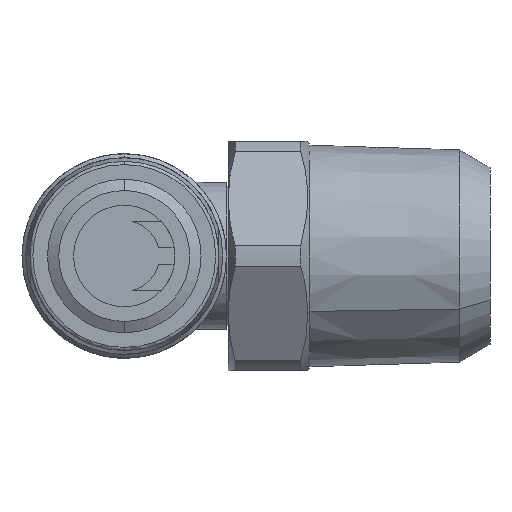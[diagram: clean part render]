
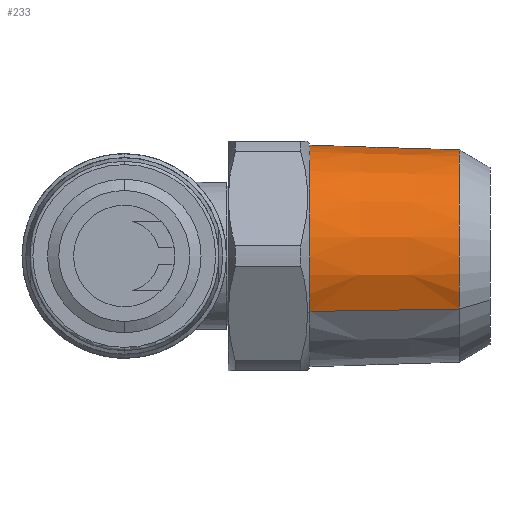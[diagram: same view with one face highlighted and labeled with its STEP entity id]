
A CAD part, left-side view. The second image highlights one B-rep face of the part: STEP entity #233.
In plain terms, the highlighted conical face has half-angle 1.78 degrees and reference radius 6.485 mm.
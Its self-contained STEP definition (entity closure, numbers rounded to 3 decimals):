
#233 = ADVANCED_FACE ( 'NONE', ( #2878 ), #2555, .T. ) ;
#337 = CARTESIAN_POINT ( 'NONE',  ( 0., -5.1, 0. ) ) ;
#377 = DIRECTION ( 'NONE',  ( -0.027, 1., -0.016 ) ) ;
#382 = DIRECTION ( 'NONE',  ( 0., -1., 0. ) ) ;
#573 = CARTESIAN_POINT ( 'NONE',  ( 5.616, -14.221, 3.243 ) ) ;
#833 = AXIS2_PLACEMENT_3D ( 'NONE', #2910, #3667, #4349 ) ;
#880 = CIRCLE ( 'NONE', #1494, 6.768 ) ;
#1325 = CARTESIAN_POINT ( 'NONE',  ( -5.862, -5.1, -3.384 ) ) ;
#1494 = AXIS2_PLACEMENT_3D ( 'NONE', #337, #382, #4042 ) ;
#1611 = EDGE_CURVE ( 'NONE', #2905, #2373, #880, .T. ) ;
#1637 = VERTEX_POINT ( 'NONE', #3656 ) ;
#1840 = VERTEX_POINT ( 'NONE', #4667 ) ;
#1876 = LINE ( 'NONE', #4784, #1993 ) ;
#1993 = VECTOR ( 'NONE', #377, 1000. ) ;
#2094 = ORIENTED_EDGE ( 'NONE', *, *, #3785, .T. ) ;
#2258 = ORIENTED_EDGE ( 'NONE', *, *, #4375, .F. ) ;
#2260 = ORIENTED_EDGE ( 'NONE', *, *, #1611, .T. ) ;
#2373 = VERTEX_POINT ( 'NONE', #1325 ) ;
#2384 = EDGE_LOOP ( 'NONE', ( #4062, #2258, #2094, #2260 ) ) ;
#2483 = CARTESIAN_POINT ( 'NONE',  ( 5.862, -5.1, 3.384 ) ) ;
#2555 = CONICAL_SURFACE ( 'NONE', #3875, 6.485, 0.031 ) ;
#2683 = VECTOR ( 'NONE', #3897, 1000. ) ;
#2878 = FACE_OUTER_BOUND ( 'NONE', #2384, .T. ) ;
#2905 = VERTEX_POINT ( 'NONE', #2483 ) ;
#2910 = CARTESIAN_POINT ( 'NONE',  ( 0., -14.221, 0. ) ) ;
#3566 = DIRECTION ( 'NONE',  ( 0.866, 0., 0.5 ) ) ;
#3656 = CARTESIAN_POINT ( 'NONE',  ( -5.616, -14.221, -3.243 ) ) ;
#3667 = DIRECTION ( 'NONE',  ( 0., -1., 0. ) ) ;
#3785 = EDGE_CURVE ( 'NONE', #1840, #2905, #4307, .T. ) ;
#3875 = AXIS2_PLACEMENT_3D ( 'NONE', #3885, #4699, #3566 ) ;
#3885 = CARTESIAN_POINT ( 'NONE',  ( 0., -14.221, 0. ) ) ;
#3897 = DIRECTION ( 'NONE',  ( 0.027, 1., 0.016 ) ) ;
#3961 = EDGE_CURVE ( 'NONE', #1637, #2373, #1876, .T. ) ;
#4042 = DIRECTION ( 'NONE',  ( -0.866, 0., -0.5 ) ) ;
#4062 = ORIENTED_EDGE ( 'NONE', *, *, #3961, .F. ) ;
#4307 = LINE ( 'NONE', #573, #2683 ) ;
#4349 = DIRECTION ( 'NONE',  ( -0.866, 0., -0.5 ) ) ;
#4375 = EDGE_CURVE ( 'NONE', #1840, #1637, #4400, .T. ) ;
#4400 = CIRCLE ( 'NONE', #833, 6.485 ) ;
#4667 = CARTESIAN_POINT ( 'NONE',  ( 5.616, -14.221, 3.243 ) ) ;
#4699 = DIRECTION ( 'NONE',  ( 0., 1., 0. ) ) ;
#4784 = CARTESIAN_POINT ( 'NONE',  ( -5.616, -14.221, -3.243 ) ) ;
